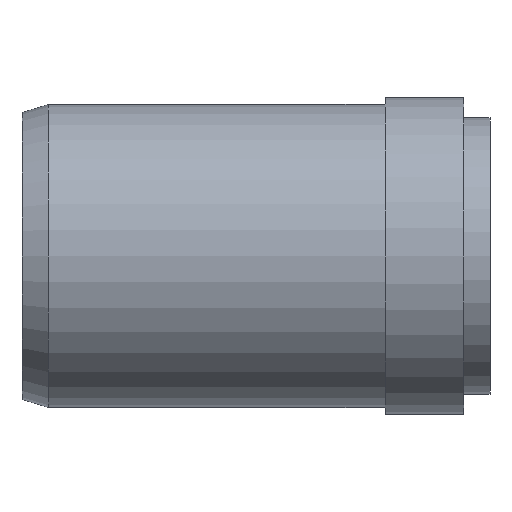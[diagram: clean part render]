
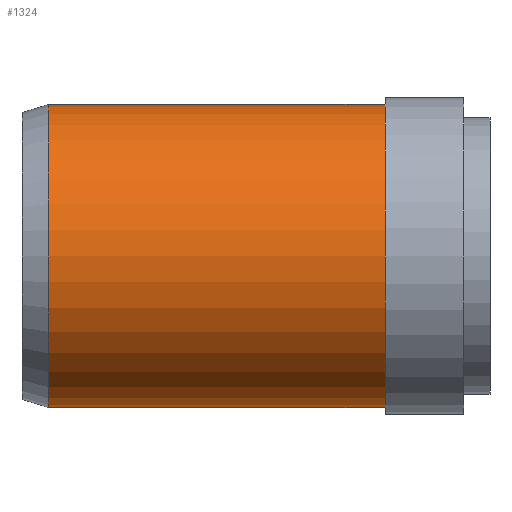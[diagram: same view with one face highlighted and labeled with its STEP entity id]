
A CAD part, front view. The second image highlights one B-rep face of the part: STEP entity #1324.
In plain terms, the highlighted cylindrical face has radius 20.075 mm (diameter 40.15 mm), a full revolution.
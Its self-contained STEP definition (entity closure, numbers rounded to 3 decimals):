
#16=FACE_BOUND($,#203,.T.);
#47=CIRCLE($,#1422,20.075);
#48=CIRCLE($,#1424,20.075);
#60=CYLINDRICAL_SURFACE($,#1423,20.075);
#132=FACE_OUTER_BOUND($,#202,.T.);
#202=EDGE_LOOP($,(#1098));
#203=EDGE_LOOP($,(#1099));
#603=VERTEX_POINT($,#2124);
#604=VERTEX_POINT($,#2127);
#775=EDGE_CURVE($,#603,#603,#47,.T.);
#776=EDGE_CURVE($,#604,#604,#48,.T.);
#1098=ORIENTED_EDGE($,*,*,#776,.F.);
#1099=ORIENTED_EDGE($,*,*,#775,.T.);
#1324=ADVANCED_FACE($,(#132,#16),#60,.T.);
#1422=AXIS2_PLACEMENT_3D($,#2125,#1750,#1751);
#1423=AXIS2_PLACEMENT_3D($,#2126,#1752,#1753);
#1424=AXIS2_PLACEMENT_3D($,#2128,#1754,#1755);
#1750=DIRECTION('center_axis',(1.,0.,0.));
#1751=DIRECTION('ref_axis',(0.,1.,0.));
#1752=DIRECTION('center_axis',(1.,0.,0.));
#1753=DIRECTION('ref_axis',(0.,1.,0.));
#1754=DIRECTION('center_axis',(1.,0.,0.));
#1755=DIRECTION('ref_axis',(0.,1.,0.));
#2124=CARTESIAN_POINT('',(3.5,20.075,0.));
#2125=CARTESIAN_POINT('Origin',(3.5,0.,0.));
#2126=CARTESIAN_POINT('Origin',(25.8,0.,0.));
#2127=CARTESIAN_POINT('',(48.1,20.075,0.));
#2128=CARTESIAN_POINT('Origin',(48.1,0.,0.));
